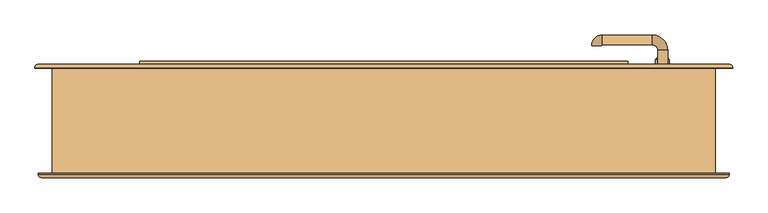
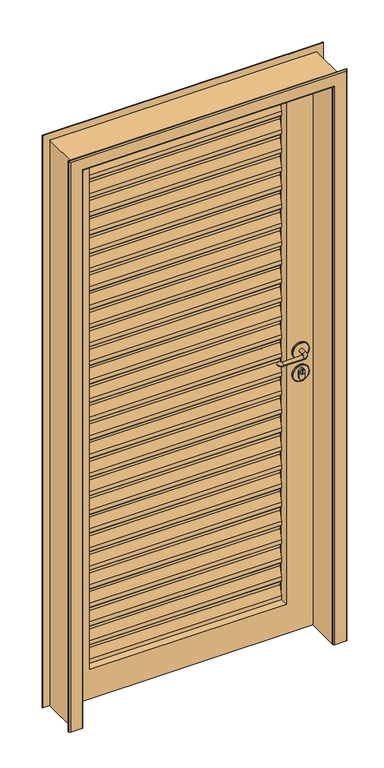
"""IFC4 building model written with IfcOpenShell, lengths in millimetres: door geometry, PORTA VENEZIANA PARAMÉTRICA : .VENEZIANA 90X210 2."""

from ifc_helpers import new_model, si_unit, point, frame, origin, place, context, project, spatial, polyline, circle_curve, ellipse_curve, trimmed, outline, extrude, faceted_brep, source, transform, mapped, element, save
from ifc_brep_helpers import plane_surface, cylinder_surface, revolved_surface, advanced_brep


def door_47245ebf(model_context):
    return source(origin(), model_context, "Body", "SolidModel", [
        extrude(outline(polyline([(75.0, 1945.0), (75.0, 1930.0), (74.0, 1930.0), (74.0, 1945.1400549), (84.0, 1980.1400549), (84.0, 1999.0), (74.0, 1999.0), (74.0, 2000.0), (85.0, 2000.0), (85.0, 1980.0), (75.0, 1945.0)])), frame((-350.0, 0.0, 0.0), z_axis=(1.0, 0.0, 0.0), x_axis=(0.0, 1.0, 0.0)), (0.0, 0.0, 1.0), 700.0),
        extrude(outline(polyline([(75.0, 1875.0), (75.0, 1860.0), (74.0, 1860.0), (74.0, 1875.1400549), (84.0, 1910.1400549), (84.0, 1929.0), (74.0, 1929.0), (74.0, 1930.0), (85.0, 1930.0), (85.0, 1910.0), (75.0, 1875.0)])), frame((-350.0, 0.0, 0.0), z_axis=(1.0, 0.0, 0.0), x_axis=(0.0, 1.0, 0.0)), (0.0, 0.0, 1.0), 700.0),
        extrude(outline(polyline([(75.0, 1805.0), (75.0, 1790.0), (74.0, 1790.0), (74.0, 1805.1400549), (84.0, 1840.1400549), (84.0, 1859.0), (74.0, 1859.0), (74.0, 1860.0), (85.0, 1860.0), (85.0, 1840.0), (75.0, 1805.0)])), frame((-350.0, 0.0, 0.0), z_axis=(1.0, 0.0, 0.0), x_axis=(0.0, 1.0, 0.0)), (0.0, 0.0, 1.0), 700.0),
        extrude(outline(polyline([(75.0, 1735.0), (75.0, 1720.0), (74.0, 1720.0), (74.0, 1735.1400549), (84.0, 1770.1400549), (84.0, 1789.0), (74.0, 1789.0), (74.0, 1790.0), (85.0, 1790.0), (85.0, 1770.0), (75.0, 1735.0)])), frame((-350.0, 0.0, 0.0), z_axis=(1.0, 0.0, 0.0), x_axis=(0.0, 1.0, 0.0)), (0.0, 0.0, 1.0), 700.0),
        extrude(outline(polyline([(75.0, 1665.0), (75.0, 1650.0), (74.0, 1650.0), (74.0, 1665.1400549), (84.0, 1700.1400549), (84.0, 1719.0), (74.0, 1719.0), (74.0, 1720.0), (85.0, 1720.0), (85.0, 1700.0), (75.0, 1665.0)])), frame((-350.0, 0.0, 0.0), z_axis=(1.0, 0.0, 0.0), x_axis=(0.0, 1.0, 0.0)), (0.0, 0.0, 1.0), 700.0),
        extrude(outline(polyline([(75.0, 1595.0), (75.0, 1580.0), (74.0, 1580.0), (74.0, 1595.1400549), (84.0, 1630.1400549), (84.0, 1649.0), (74.0, 1649.0), (74.0, 1650.0), (85.0, 1650.0), (85.0, 1630.0), (75.0, 1595.0)])), frame((-350.0, 0.0, 0.0), z_axis=(1.0, 0.0, 0.0), x_axis=(0.0, 1.0, 0.0)), (0.0, 0.0, 1.0), 700.0),
        extrude(outline(polyline([(75.0, 1525.0), (75.0, 1510.0), (74.0, 1510.0), (74.0, 1525.1400549), (84.0, 1560.1400549), (84.0, 1579.0), (74.0, 1579.0), (74.0, 1580.0), (85.0, 1580.0), (85.0, 1560.0), (75.0, 1525.0)])), frame((-350.0, 0.0, 0.0), z_axis=(1.0, 0.0, 0.0), x_axis=(0.0, 1.0, 0.0)), (0.0, 0.0, 1.0), 700.0),
        extrude(outline(polyline([(75.0, 1455.0), (75.0, 1440.0), (74.0, 1440.0), (74.0, 1455.1400549), (84.0, 1490.1400549), (84.0, 1509.0), (74.0, 1509.0), (74.0, 1510.0), (85.0, 1510.0), (85.0, 1490.0), (75.0, 1455.0)])), frame((-350.0, 0.0, 0.0), z_axis=(1.0, 0.0, 0.0), x_axis=(0.0, 1.0, 0.0)), (0.0, 0.0, 1.0), 700.0),
        extrude(outline(polyline([(75.0, 1385.0), (75.0, 1370.0), (74.0, 1370.0), (74.0, 1385.1400549), (84.0, 1420.1400549), (84.0, 1439.0), (74.0, 1439.0), (74.0, 1440.0), (85.0, 1440.0), (85.0, 1420.0), (75.0, 1385.0)])), frame((-350.0, 0.0, 0.0), z_axis=(1.0, 0.0, 0.0), x_axis=(0.0, 1.0, 0.0)), (0.0, 0.0, 1.0), 700.0),
        extrude(outline(polyline([(75.0, 1315.0), (75.0, 1300.0), (74.0, 1300.0), (74.0, 1315.1400549), (84.0, 1350.1400549), (84.0, 1369.0), (74.0, 1369.0), (74.0, 1370.0), (85.0, 1370.0), (85.0, 1350.0), (75.0, 1315.0)])), frame((-350.0, 0.0, 0.0), z_axis=(1.0, 0.0, 0.0), x_axis=(0.0, 1.0, 0.0)), (0.0, 0.0, 1.0), 700.0),
        extrude(outline(polyline([(75.0, 1245.0), (75.0, 1230.0), (74.0, 1230.0), (74.0, 1245.1400549), (84.0, 1280.1400549), (84.0, 1299.0), (74.0, 1299.0), (74.0, 1300.0), (85.0, 1300.0), (85.0, 1280.0), (75.0, 1245.0)])), frame((-350.0, 0.0, 0.0), z_axis=(1.0, 0.0, 0.0), x_axis=(0.0, 1.0, 0.0)), (0.0, 0.0, 1.0), 700.0),
        extrude(outline(polyline([(75.0, 1175.0), (75.0, 1160.0), (74.0, 1160.0), (74.0, 1175.1400549), (84.0, 1210.1400549), (84.0, 1229.0), (74.0, 1229.0), (74.0, 1230.0), (85.0, 1230.0), (85.0, 1210.0), (75.0, 1175.0)])), frame((-350.0, 0.0, 0.0), z_axis=(1.0, 0.0, 0.0), x_axis=(0.0, 1.0, 0.0)), (0.0, 0.0, 1.0), 700.0),
        extrude(outline(polyline([(75.0, 1105.0), (75.0, 1090.0), (74.0, 1090.0), (74.0, 1105.1400549), (84.0, 1140.1400549), (84.0, 1159.0), (74.0, 1159.0), (74.0, 1160.0), (85.0, 1160.0), (85.0, 1140.0), (75.0, 1105.0)])), frame((-350.0, 0.0, 0.0), z_axis=(1.0, 0.0, 0.0), x_axis=(0.0, 1.0, 0.0)), (0.0, 0.0, 1.0), 700.0),
        extrude(outline(polyline([(75.0, 1035.0), (75.0, 1020.0), (74.0, 1020.0), (74.0, 1035.1400549), (84.0, 1070.1400549), (84.0, 1089.0), (74.0, 1089.0), (74.0, 1090.0), (85.0, 1090.0), (85.0, 1070.0), (75.0, 1035.0)])), frame((-350.0, 0.0, 0.0), z_axis=(1.0, 0.0, 0.0), x_axis=(0.0, 1.0, 0.0)), (0.0, 0.0, 1.0), 700.0),
        extrude(outline(polyline([(75.0, 965.0), (75.0, 950.0), (74.0, 950.0), (74.0, 965.1400549), (84.0, 1000.1400549), (84.0, 1019.0), (74.0, 1019.0), (74.0, 1020.0), (85.0, 1020.0), (85.0, 1000.0), (75.0, 965.0)])), frame((-350.0, 0.0, 0.0), z_axis=(1.0, 0.0, 0.0), x_axis=(0.0, 1.0, 0.0)), (0.0, 0.0, 1.0), 700.0),
        extrude(outline(polyline([(75.0, 895.0), (75.0, 880.0), (74.0, 880.0), (74.0, 895.1400549), (84.0, 930.1400549), (84.0, 949.0), (74.0, 949.0), (74.0, 950.0), (85.0, 950.0), (85.0, 930.0), (75.0, 895.0)])), frame((-350.0, 0.0, 0.0), z_axis=(1.0, 0.0, 0.0), x_axis=(0.0, 1.0, 0.0)), (0.0, 0.0, 1.0), 700.0),
        extrude(outline(polyline([(75.0, 825.0), (75.0, 810.0), (74.0, 810.0), (74.0, 825.1400549), (84.0, 860.1400549), (84.0, 879.0), (74.0, 879.0), (74.0, 880.0), (85.0, 880.0), (85.0, 860.0), (75.0, 825.0)])), frame((-350.0, 0.0, 0.0), z_axis=(1.0, 0.0, 0.0), x_axis=(0.0, 1.0, 0.0)), (0.0, 0.0, 1.0), 700.0),
        extrude(outline(polyline([(75.0, 755.0), (75.0, 740.0), (74.0, 740.0), (74.0, 755.1400549), (84.0, 790.1400549), (84.0, 809.0), (74.0, 809.0), (74.0, 810.0), (85.0, 810.0), (85.0, 790.0), (75.0, 755.0)])), frame((-350.0, 0.0, 0.0), z_axis=(1.0, 0.0, 0.0), x_axis=(0.0, 1.0, 0.0)), (0.0, 0.0, 1.0), 700.0),
        extrude(outline(polyline([(75.0, 685.0), (75.0, 670.0), (74.0, 670.0), (74.0, 685.1400549), (84.0, 720.1400549), (84.0, 739.0), (74.0, 739.0), (74.0, 740.0), (85.0, 740.0), (85.0, 720.0), (75.0, 685.0)])), frame((-350.0, 0.0, 0.0), z_axis=(1.0, 0.0, 0.0), x_axis=(0.0, 1.0, 0.0)), (0.0, 0.0, 1.0), 700.0),
        extrude(outline(polyline([(75.0, 615.0), (75.0, 600.0), (74.0, 600.0), (74.0, 615.1400549), (84.0, 650.1400549), (84.0, 669.0), (74.0, 669.0), (74.0, 670.0), (85.0, 670.0), (85.0, 650.0), (75.0, 615.0)])), frame((-350.0, 0.0, 0.0), z_axis=(1.0, 0.0, 0.0), x_axis=(0.0, 1.0, 0.0)), (0.0, 0.0, 1.0), 700.0),
        extrude(outline(polyline([(75.0, 545.0), (75.0, 530.0), (74.0, 530.0), (74.0, 545.1400549), (84.0, 580.1400549), (84.0, 599.0), (74.0, 599.0), (74.0, 600.0), (85.0, 600.0), (85.0, 580.0), (75.0, 545.0)])), frame((-350.0, 0.0, 0.0), z_axis=(1.0, 0.0, 0.0), x_axis=(0.0, 1.0, 0.0)), (0.0, 0.0, 1.0), 700.0),
        extrude(outline(polyline([(75.0, 475.0), (75.0, 460.0), (74.0, 460.0), (74.0, 475.1400549), (84.0, 510.1400549), (84.0, 529.0), (74.0, 529.0), (74.0, 530.0), (85.0, 530.0), (85.0, 510.0), (75.0, 475.0)])), frame((-350.0, 0.0, 0.0), z_axis=(1.0, 0.0, 0.0), x_axis=(0.0, 1.0, 0.0)), (0.0, 0.0, 1.0), 700.0),
        extrude(outline(polyline([(75.0, 405.0), (75.0, 390.0), (74.0, 390.0), (74.0, 405.1400549), (84.0, 440.1400549), (84.0, 459.0), (74.0, 459.0), (74.0, 460.0), (85.0, 460.0), (85.0, 440.0), (75.0, 405.0)])), frame((-350.0, 0.0, 0.0), z_axis=(1.0, 0.0, 0.0), x_axis=(0.0, 1.0, 0.0)), (0.0, 0.0, 1.0), 700.0),
        extrude(outline(polyline([(75.0, 335.0), (75.0, 320.0), (74.0, 320.0), (74.0, 335.1400549), (84.0, 370.1400549), (84.0, 389.0), (74.0, 389.0), (74.0, 390.0), (85.0, 390.0), (85.0, 370.0), (75.0, 335.0)])), frame((-350.0, 0.0, 0.0), z_axis=(1.0, 0.0, 0.0), x_axis=(0.0, 1.0, 0.0)), (0.0, 0.0, 1.0), 700.0),
        extrude(outline(polyline([(75.0, 265.0), (75.0, 250.0), (74.0, 250.0), (74.0, 265.1400549), (84.0, 300.1400549), (84.0, 319.0), (74.0, 319.0), (74.0, 320.0), (85.0, 320.0), (85.0, 300.0), (75.0, 265.0)])), frame((-350.0, 0.0, 0.0), z_axis=(1.0, 0.0, 0.0), x_axis=(0.0, 1.0, 0.0)), (0.0, 0.0, 1.0), 700.0),
        extrude(outline(polyline([(75.0, 195.0), (75.0, 180.0), (74.0, 180.0), (74.0, 195.1400549), (84.0, 230.1400549), (84.0, 249.0), (74.0, 249.0), (74.0, 250.0), (85.0, 250.0), (85.0, 230.0), (75.0, 195.0)])), frame((-350.0, 0.0, 0.0), z_axis=(1.0, 0.0, 0.0), x_axis=(0.0, 1.0, 0.0)), (0.0, 0.0, 1.0), 700.0),
        extrude(outline(polyline([(75.0, 125.0), (75.0, 110.0), (74.0, 110.0), (74.0, 125.1400549), (84.0, 160.1400549), (84.0, 179.0), (74.0, 179.0), (74.0, 180.0), (85.0, 180.0), (85.0, 160.0), (75.0, 125.0)])), frame((-350.0, 0.0, 0.0), z_axis=(1.0, 0.0, 0.0), x_axis=(0.0, 1.0, 0.0)), (0.0, 0.0, 1.0), 700.0),
        advanced_brep(
        [(393.0, 19.0, 1050.0), (407.0, 19.0, 1050.0), (407.0, 39.0, 1050.0), (393.0, 39.0, 1050.0), (385.0, 11.0, 1050.0), (385.0, -3.0, 1050.0), (313.0, 11.0, 1050.0), (313.0, -3.0, 1050.0), (312.0, 12.0, 1050.0), (298.0, 12.0, 1050.0), (371.0897225, 39.0, 1049.3126953), (427.0897225, 39.0, 1049.3126953), (429.0897225, 45.0, 1049.3126953), (369.0897225, 45.0, 1049.3126953), (369.0897225, 41.0, 1049.3126953), (429.0897225, 41.0, 1049.3126953)],
        [
            (0, 1, circle_curve(frame((400.0, 19.0, 1050.0), z_axis=(0.0, 1.0, 0.0), x_axis=(1.0, 0.0, 0.0)), 7.0)),
            (1, 2),
            (2, 3, circle_curve(frame((400.0, 39.0, 1050.0), z_axis=(0.0, -1.0, 0.0), x_axis=(1.0, 0.0, 0.0)), 7.0)),
            (3, 0),
            (1, 0, circle_curve(frame((400.0, 19.0, 1050.0), z_axis=(0.0, 1.0, 0.0), x_axis=(1.0, 0.0, 0.0)), 7.0)),
            (3, 2, circle_curve(frame((400.0, 39.0, 1050.0), z_axis=(0.0, -1.0, 0.0), x_axis=(1.0, 0.0, 0.0)), 7.0)),
            (0, 4, circle_curve(frame((385.0, 19.0, 1050.0), z_axis=(0.0, 0.0, -1.0), x_axis=(1.0, 0.0, 0.0)), 8.0)),
            (4, 5, circle_curve(frame((385.0, 4.0, 1050.0), z_axis=(1.0, 0.0, 0.0), x_axis=(0.0, -1.0, 0.0)), 7.0)),
            (5, 1, circle_curve(frame((385.0, 19.0, 1050.0), z_axis=(0.0, 0.0, 1.0), x_axis=(1.0, 0.0, 0.0)), 22.0)),
            (5, 4, circle_curve(frame((385.0, 4.0, 1050.0), z_axis=(1.0, 0.0, 0.0), x_axis=(0.0, -1.0, 0.0)), 7.0)),
            (4, 6),
            (6, 7, circle_curve(frame((313.0, 4.0, 1050.0), z_axis=(1.0, 0.0, 0.0), x_axis=(0.0, -1.0, 0.0)), 7.0)),
            (7, 5),
            (7, 6, circle_curve(frame((313.0, 4.0, 1050.0), z_axis=(1.0, 0.0, 0.0), x_axis=(0.0, -1.0, 0.0)), 7.0)),
            (8, 9, circle_curve(frame((305.0, 12.0, 1050.0), z_axis=(0.0, 1.0, 0.0), x_axis=(-1.0, 0.0, 0.0)), 7.0)),
            (9, 8, circle_curve(frame((305.0, 12.0, 1050.0), z_axis=(0.0, 1.0, 0.0), x_axis=(-1.0, 0.0, 0.0)), 7.0)),
            (6, 8, circle_curve(frame((313.0, 12.0, 1050.0), z_axis=(0.0, 0.0, -1.0), x_axis=(0.0, -1.0, 0.0)), 1.0)),
            (9, 7, circle_curve(frame((313.0, 12.0, 1050.0), z_axis=(0.0, 0.0, 1.0), x_axis=(0.0, -1.0, 0.0)), 15.0)),
            (10, 11, circle_curve(frame((399.0897225, 39.0, 1049.3126953), z_axis=(0.0, -1.0, 0.0), x_axis=(1.0, 0.0, 0.0)), 28.0)),
            (11, 10, circle_curve(frame((399.0897225, 39.0, 1049.3126953), z_axis=(0.0, -1.0, 0.0), x_axis=(-1.0, 0.0, 0.0)), 28.0)),
            (12, 13, circle_curve(frame((399.0897225, 45.0, 1049.3126953), z_axis=(0.0, 1.0, 0.0), x_axis=(-1.0, 0.0, 0.0)), 30.0)),
            (13, 12, circle_curve(frame((399.0897225, 45.0, 1049.3126953), z_axis=(0.0, 1.0, 0.0), x_axis=(-1.0, 0.0, 0.0)), 30.0)),
            (13, 14),
            (14, 15, circle_curve(frame((399.0897225, 41.0, 1049.3126953), z_axis=(0.0, 1.0, 0.0), x_axis=(-1.0, 0.0, 0.0)), 30.0)),
            (15, 12),
            (15, 14, circle_curve(frame((399.0897225, 41.0, 1049.3126953), z_axis=(0.0, 1.0, 0.0), x_axis=(-1.0, 0.0, 0.0)), 30.0)),
            (10, 14, circle_curve(frame((371.0897225, 41.0, 1049.3126953), z_axis=(0.0, 0.0, -1.0), x_axis=(-1.0, 0.0, 0.0)), 2.0)),
            (15, 11, circle_curve(frame((427.0897225, 41.0, 1049.3126953), z_axis=(0.0, 0.0, -1.0), x_axis=(1.0, 0.0, 0.0)), 2.0)),
        ],
        [
            cylinder_surface(frame((400.0, 45.0, 1050.0), z_axis=(0.0, 1.0, 0.0), x_axis=(1.0, 0.0, 0.0)), 7.0),
            revolved_surface(trimmed(ellipse_curve(frame((400.0, 19.0, 1050.0), z_axis=(0.0, 1.0, 0.0), x_axis=(1.0, 0.0, 0.0)), 7.0, 7.0), [point((393.0, 19.0, 1050.0))], [point((407.0, 19.0, 1050.0))], True, "CARTESIAN"), (385.0, 19.0, 1050.0), (0.0, 0.0, -1.0)),
            revolved_surface(trimmed(ellipse_curve(frame((400.0, 19.0, 1050.0), z_axis=(0.0, 1.0, 0.0), x_axis=(1.0, 0.0, 0.0)), 7.0, 7.0), [point((407.0, 19.0, 1050.0))], [point((393.0, 19.0, 1050.0))], True, "CARTESIAN"), (385.0, 19.0, 1050.0), (0.0, 0.0, -1.0)),
            cylinder_surface(frame((385.0, 4.0, 1050.0), z_axis=(1.0, 0.0, 0.0), x_axis=(0.0, -1.0, 0.0)), 7.0),
            plane_surface(frame((305.0, 12.0, 1050.0), z_axis=(0.0, 1.0, 0.0), x_axis=(0.0, 0.0, 1.0))),
            revolved_surface(trimmed(ellipse_curve(frame((313.0, 4.0, 1050.0), z_axis=(1.0, 0.0, 0.0), x_axis=(0.0, -1.0, 0.0)), 7.0, 7.0), [point((313.0, 11.0, 1050.0))], [point((313.0, -3.0, 1050.0))], True, "CARTESIAN"), (313.0, 12.0, 1050.0), (0.0, 0.0, -1.0)),
            revolved_surface(trimmed(ellipse_curve(frame((313.0, 4.0, 1050.0), z_axis=(1.0, 0.0, 0.0), x_axis=(0.0, -1.0, 0.0)), 7.0, 7.0), [point((313.0, -3.0, 1050.0))], [point((313.0, 11.0, 1050.0))], True, "CARTESIAN"), (313.0, 12.0, 1050.0), (0.0, 0.0, -1.0)),
            plane_surface(frame((369.0897225, 39.0, 1049.3126953), z_axis=(0.0, -1.0, 0.0), x_axis=(0.0, 0.0, -1.0))),
            plane_surface(frame((369.0897225, 45.0, 1049.3126953), z_axis=(0.0, 1.0, 0.0), x_axis=(0.0, 0.0, 1.0))),
            cylinder_surface(frame((399.0897225, 45.0, 1049.3126953), z_axis=(0.0, -1.0, 0.0), x_axis=(-1.0, 0.0, 0.0)), 30.0),
            revolved_surface(trimmed(ellipse_curve(frame((427.0897225, 41.0, 1049.3126953), z_axis=(0.0, 0.0, 1.0), x_axis=(1.0, 0.0, 0.0)), 2.0, 2.0), [point((427.0897225, 39.0, 1049.3126953))], [point((429.0897225, 41.0, 1049.3126953))], True, "CARTESIAN"), (399.0897225, 45.0, 1049.3126953), (0.0, 1.0, 0.0)),
            revolved_surface(trimmed(ellipse_curve(frame((371.0897225, 41.0, 1049.3126953), z_axis=(0.0, 0.0, -1.0), x_axis=(-1.0, 0.0, 0.0)), 2.0, 2.0), [point((371.0897225, 39.0, 1049.3126953))], [point((369.0897225, 41.0, 1049.3126953))], True, "CARTESIAN"), (399.0897225, 45.0, 1049.3126953), (0.0, 1.0, 0.0)),
        ],
        [
            (0, [[1, 2, 3, 4]]),
            (0, [[5, -4, 6, -2]]),
            (1, [[-1, 7, 8, 9]]),
            (2, [[-5, -9, 10, -7]]),
            (3, [[-8, 11, 12, 13]]),
            (3, [[-10, -13, 14, -11]]),
            (4, [[15, 16]]),
            (5, [[-12, 17, -16, 18]]),
            (6, [[-14, -18, -15, -17]]),
            (7, [[19, 20], [-3, -6]]),
            (8, [[21, 22]]),
            (9, [[-22, 23, 24, 25]]),
            (9, [[-21, -25, 26, -23]]),
            (10, [[27, -26, 28, -19]]),
            (11, [[-27, -20, -28, -24]]),
        ],
    ),
        advanced_brep(
        [(371.0897225, 39.0, 964.9710055), (427.0897225, 39.0, 964.9710055), (389.0897225, 39.0, 974.9710055), (409.0897225, 39.0, 974.9710055), (409.0897225, 39.0, 954.9710055), (389.0897225, 39.0, 954.9710055), (398.0897225, 39.0, 980.9710055), (398.0897225, 39.0, 968.9710055), (400.0897225, 39.0, 968.9710055), (400.0897225, 39.0, 980.9710055), (429.0897225, 45.0, 964.9710055), (369.0897225, 45.0, 964.9710055), (429.0897225, 41.0, 964.9710055), (369.0897225, 41.0, 964.9710055), (409.0897225, 32.5, 974.9710055), (389.0897225, 32.5, 974.9710055), (389.0897225, 32.5, 954.9710055), (409.0897225, 32.5, 954.9710055), (390.5897225, 32.5, 974.9710055), (407.5897225, 32.5, 974.9710055), (398.0897225, 30.0, 980.9710055), (398.0897225, 30.0, 968.9710055), (400.0897225, 30.0, 980.9710055), (400.0897225, 30.0, 968.9710055), (407.5897225, 30.0, 974.9710055), (390.5897225, 30.0, 974.9710055)],
        [
            (0, 1, circle_curve(frame((399.0897225, 39.0, 964.9710055), z_axis=(0.0, -1.0, 0.0), x_axis=(1.0, 0.0, 0.0)), 28.0)),
            (1, 0, circle_curve(frame((399.0897225, 39.0, 964.9710055), z_axis=(0.0, -1.0, 0.0), x_axis=(-1.0, 0.0, 0.0)), 28.0)),
            (2, 3, circle_curve(frame((399.0897225, 39.0, 974.9710055), z_axis=(0.0, 1.0, 0.0), x_axis=(-1.0, 0.0, 0.0)), 10.0)),
            (3, 4),
            (4, 5, circle_curve(frame((399.0897225, 39.0, 954.9710055), z_axis=(0.0, 1.0, 0.0), x_axis=(-1.0, 0.0, 0.0)), 10.0)),
            (5, 2),
            (6, 7),
            (7, 8),
            (8, 9),
            (9, 6),
            (10, 11, circle_curve(frame((399.0897225, 45.0, 964.9710055), z_axis=(0.0, 1.0, 0.0), x_axis=(-1.0, 0.0, 0.0)), 30.0)),
            (11, 10, circle_curve(frame((399.0897225, 45.0, 964.9710055), z_axis=(0.0, 1.0, 0.0), x_axis=(-1.0, 0.0, 0.0)), 30.0)),
            (10, 12),
            (12, 13, circle_curve(frame((399.0897225, 41.0, 964.9710055), z_axis=(0.0, 1.0, 0.0), x_axis=(-1.0, 0.0, 0.0)), 30.0)),
            (13, 11),
            (13, 12, circle_curve(frame((399.0897225, 41.0, 964.9710055), z_axis=(0.0, 1.0, 0.0), x_axis=(-1.0, 0.0, 0.0)), 30.0)),
            (0, 13, circle_curve(frame((371.0897225, 41.0, 964.9710055), z_axis=(0.0, 0.0, -1.0), x_axis=(-1.0, 0.0, 0.0)), 2.0)),
            (12, 1, circle_curve(frame((427.0897225, 41.0, 964.9710055), z_axis=(0.0, 0.0, -1.0), x_axis=(1.0, 0.0, 0.0)), 2.0)),
            (14, 15, circle_curve(frame((399.0897225, 32.5, 974.9710055), z_axis=(0.0, -1.0, 0.0), x_axis=(-1.0, 0.0, 0.0)), 10.0)),
            (15, 16),
            (16, 17, circle_curve(frame((399.0897225, 32.5, 954.9710055), z_axis=(0.0, -1.0, 0.0), x_axis=(-1.0, 0.0, 0.0)), 10.0)),
            (17, 14),
            (18, 19, circle_curve(frame((399.0897225, 32.5, 974.9710055), z_axis=(0.0, 1.0, 0.0), x_axis=(-1.0, 0.0, 0.0)), 8.5)),
            (19, 18, circle_curve(frame((399.0897225, 32.5, 974.9710055), z_axis=(0.0, 1.0, 0.0), x_axis=(-1.0, 0.0, 0.0)), 8.5)),
            (6, 20),
            (20, 21),
            (21, 7),
            (9, 22),
            (22, 20),
            (8, 23),
            (23, 22),
            (21, 23),
            (14, 3),
            (2, 15),
            (5, 16),
            (4, 17),
            (24, 25, circle_curve(frame((399.0897225, 30.0, 974.9710055), z_axis=(0.0, -1.0, 0.0), x_axis=(-1.0, 0.0, 0.0)), 8.5)),
            (25, 24, circle_curve(frame((399.0897225, 30.0, 974.9710055), z_axis=(0.0, -1.0, 0.0), x_axis=(-1.0, 0.0, 0.0)), 8.5)),
            (24, 19),
            (18, 25),
        ],
        [
            plane_surface(frame((369.0897225, 39.0, 964.9710055), z_axis=(0.0, -1.0, 0.0), x_axis=(0.0, 0.0, -1.0))),
            plane_surface(frame((369.0897225, 45.0, 964.9710055), z_axis=(0.0, 1.0, 0.0), x_axis=(0.0, 0.0, 1.0))),
            cylinder_surface(frame((399.0897225, 45.0, 964.9710055), z_axis=(0.0, -1.0, 0.0), x_axis=(-1.0, 0.0, 0.0)), 30.0),
            revolved_surface(trimmed(ellipse_curve(frame((427.0897225, 41.0, 964.9710055), z_axis=(0.0, 0.0, 1.0), x_axis=(1.0, 0.0, 0.0)), 2.0, 2.0), [point((427.0897225, 39.0, 964.9710055))], [point((429.0897225, 41.0, 964.9710055))], True, "CARTESIAN"), (399.0897225, 45.0, 964.9710055), (0.0, 1.0, 0.0)),
            revolved_surface(trimmed(ellipse_curve(frame((371.0897225, 41.0, 964.9710055), z_axis=(0.0, 0.0, -1.0), x_axis=(-1.0, 0.0, 0.0)), 2.0, 2.0), [point((371.0897225, 39.0, 964.9710055))], [point((369.0897225, 41.0, 964.9710055))], True, "CARTESIAN"), (399.0897225, 45.0, 964.9710055), (0.0, 1.0, 0.0)),
            plane_surface(frame((398.0897225, 32.5, 980.9710055), z_axis=(0.0, -1.0, 0.0), x_axis=(0.0, 0.0, 1.0))),
            plane_surface(frame((398.0897225, 32.5, 968.9710055), z_axis=(1.0, 0.0, 0.0), x_axis=(0.0, 1.0, 0.0))),
            plane_surface(frame((398.0897225, 32.5, 980.9710055), z_axis=(0.0, 0.0, -1.0), x_axis=(0.0, 1.0, 0.0))),
            plane_surface(frame((400.0897225, 32.5, 980.9710055), z_axis=(-1.0, 0.0, 0.0), x_axis=(0.0, 1.0, 0.0))),
            plane_surface(frame((400.0897225, 32.5, 968.9710055), z_axis=(0.0, 0.0, 1.0), x_axis=(0.0, 1.0, 0.0))),
            cylinder_surface(frame((399.0897225, 45.0, 974.9710055), z_axis=(0.0, -1.0, 0.0), x_axis=(-1.0, 0.0, 0.0)), 10.0),
            plane_surface(frame((389.0897225, 32.5, 974.9710055), z_axis=(-1.0, 0.0, 0.0), x_axis=(0.0, 1.0, 0.0))),
            cylinder_surface(frame((399.0897225, 45.0, 954.9710055), z_axis=(0.0, -1.0, 0.0), x_axis=(-1.0, 0.0, 0.0)), 10.0),
            plane_surface(frame((409.0897225, 32.5, 954.9710055), z_axis=(1.0, 0.0, 0.0), x_axis=(0.0, 1.0, 0.0))),
            plane_surface(frame((398.0897225, 30.0, 980.9710055), z_axis=(0.0, -1.0, 0.0), x_axis=(0.0, 0.0, 1.0))),
            cylinder_surface(frame((399.0897225, 45.0, 974.9710055), z_axis=(0.0, -1.0, 0.0), x_axis=(-1.0, 0.0, 0.0)), 8.5),
        ],
        [
            (0, [[1, 2], [3, 4, 5, 6]]),
            (0, [[7, 8, 9, 10]]),
            (1, [[11, 12]]),
            (2, [[-11, 13, 14, 15]]),
            (2, [[-12, -15, 16, -13]]),
            (3, [[17, -14, 18, -1]]),
            (4, [[-17, -2, -18, -16]]),
            (5, [[19, 20, 21, 22], [23, 24]]),
            (6, [[-7, 25, 26, 27]]),
            (7, [[-25, -10, 28, 29]]),
            (8, [[-28, -9, 30, 31]]),
            (9, [[-27, 32, -30, -8]]),
            (10, [[-19, 33, -3, 34]]),
            (11, [[-20, -34, -6, 35]]),
            (12, [[-21, -35, -5, 36]]),
            (13, [[-22, -36, -4, -33]]),
            (14, [[37, 38], [-26, -29, -31, -32]]),
            (15, [[-37, 39, -23, 40]]),
            (15, [[-38, -40, -24, -39]]),
        ],
    ),
        advanced_brep(
        [(393.0, 101.0, 1050.0), (393.0, 81.0, 1050.0), (407.0, 81.0, 1050.0), (407.0, 101.0, 1050.0), (385.0, 123.0, 1050.0), (385.0, 109.0, 1050.0), (313.0, 123.0, 1050.0), (313.0, 109.0, 1050.0), (312.0, 108.0, 1050.0), (298.0, 108.0, 1050.0), (371.0897225, 81.0, 1049.3126953), (427.0897225, 81.0, 1049.3126953), (429.0897225, 75.0, 1049.3126953), (369.0897225, 75.0, 1049.3126953), (429.0897225, 79.0, 1049.3126953), (369.0897225, 79.0, 1049.3126953)],
        [
            (0, 1),
            (1, 2, circle_curve(frame((400.0, 81.0, 1050.0), z_axis=(0.0, 1.0, 0.0), x_axis=(1.0, 0.0, 0.0)), 7.0)),
            (2, 3),
            (3, 0, circle_curve(frame((400.0, 101.0, 1050.0), z_axis=(0.0, -1.0, 0.0), x_axis=(1.0, 0.0, 0.0)), 7.0)),
            (2, 1, circle_curve(frame((400.0, 81.0, 1050.0), z_axis=(0.0, 1.0, 0.0), x_axis=(1.0, 0.0, 0.0)), 7.0)),
            (0, 3, circle_curve(frame((400.0, 101.0, 1050.0), z_axis=(0.0, -1.0, 0.0), x_axis=(1.0, 0.0, 0.0)), 7.0)),
            (3, 4, circle_curve(frame((385.0, 101.0, 1050.0), z_axis=(0.0, 0.0, 1.0), x_axis=(1.0, 0.0, 0.0)), 22.0)),
            (4, 5, circle_curve(frame((385.0, 116.0, 1050.0), z_axis=(1.0, 0.0, 0.0), x_axis=(0.0, 1.0, 0.0)), 7.0)),
            (5, 0, circle_curve(frame((385.0, 101.0, 1050.0), z_axis=(0.0, 0.0, -1.0), x_axis=(1.0, 0.0, 0.0)), 8.0)),
            (5, 4, circle_curve(frame((385.0, 116.0, 1050.0), z_axis=(1.0, 0.0, 0.0), x_axis=(0.0, 1.0, 0.0)), 7.0)),
            (4, 6),
            (6, 7, circle_curve(frame((313.0, 116.0, 1050.0), z_axis=(1.0, 0.0, 0.0), x_axis=(0.0, 1.0, 0.0)), 7.0)),
            (7, 5),
            (7, 6, circle_curve(frame((313.0, 116.0, 1050.0), z_axis=(1.0, 0.0, 0.0), x_axis=(0.0, 1.0, 0.0)), 7.0)),
            (8, 9, circle_curve(frame((305.0, 108.0, 1050.0), z_axis=(0.0, -1.0, 0.0), x_axis=(-1.0, 0.0, 0.0)), 7.0)),
            (9, 8, circle_curve(frame((305.0, 108.0, 1050.0), z_axis=(0.0, -1.0, 0.0), x_axis=(-1.0, 0.0, 0.0)), 7.0)),
            (6, 9, circle_curve(frame((313.0, 108.0, 1050.0), z_axis=(0.0, 0.0, 1.0), x_axis=(0.0, 1.0, 0.0)), 15.0)),
            (8, 7, circle_curve(frame((313.0, 108.0, 1050.0), z_axis=(0.0, 0.0, -1.0), x_axis=(0.0, 1.0, 0.0)), 1.0)),
            (10, 11, circle_curve(frame((399.0897225, 81.0, 1049.3126953), z_axis=(0.0, 1.0, 0.0), x_axis=(-1.0, 0.0, 0.0)), 28.0)),
            (11, 10, circle_curve(frame((399.0897225, 81.0, 1049.3126953), z_axis=(0.0, 1.0, 0.0), x_axis=(1.0, 0.0, 0.0)), 28.0)),
            (12, 13, circle_curve(frame((399.0897225, 75.0, 1049.3126953), z_axis=(0.0, -1.0, 0.0), x_axis=(-1.0, 0.0, 0.0)), 30.0)),
            (13, 12, circle_curve(frame((399.0897225, 75.0, 1049.3126953), z_axis=(0.0, -1.0, 0.0), x_axis=(-1.0, 0.0, 0.0)), 30.0)),
            (12, 14),
            (14, 15, circle_curve(frame((399.0897225, 79.0, 1049.3126953), z_axis=(0.0, -1.0, 0.0), x_axis=(-1.0, 0.0, 0.0)), 30.0)),
            (15, 13),
            (15, 14, circle_curve(frame((399.0897225, 79.0, 1049.3126953), z_axis=(0.0, -1.0, 0.0), x_axis=(-1.0, 0.0, 0.0)), 30.0)),
            (11, 14, circle_curve(frame((427.0897225, 79.0, 1049.3126953), z_axis=(0.0, 0.0, -1.0), x_axis=(1.0, 0.0, 0.0)), 2.0)),
            (15, 10, circle_curve(frame((371.0897225, 79.0, 1049.3126953), z_axis=(0.0, 0.0, -1.0), x_axis=(-1.0, 0.0, 0.0)), 2.0)),
        ],
        [
            cylinder_surface(frame((400.0, 75.0, 1050.0), z_axis=(0.0, -1.0, 0.0), x_axis=(1.0, 0.0, 0.0)), 7.0),
            revolved_surface(trimmed(ellipse_curve(frame((400.0, 101.0, 1050.0), z_axis=(0.0, 1.0, 0.0), x_axis=(1.0, 0.0, 0.0)), 7.0, 7.0), [point((393.0, 101.0, 1050.0))], [point((407.0, 101.0, 1050.0))], True, "CARTESIAN"), (385.0, 101.0, 1050.0), (0.0, 0.0, -1.0)),
            revolved_surface(trimmed(ellipse_curve(frame((400.0, 101.0, 1050.0), z_axis=(0.0, 1.0, 0.0), x_axis=(1.0, 0.0, 0.0)), 7.0, 7.0), [point((407.0, 101.0, 1050.0))], [point((393.0, 101.0, 1050.0))], True, "CARTESIAN"), (385.0, 101.0, 1050.0), (0.0, 0.0, -1.0)),
            cylinder_surface(frame((385.0, 116.0, 1050.0), z_axis=(1.0, 0.0, 0.0), x_axis=(0.0, 1.0, 0.0)), 7.0),
            plane_surface(frame((305.0, 108.0, 1050.0), z_axis=(0.0, -1.0, 0.0), x_axis=(0.0, 0.0, 1.0))),
            revolved_surface(trimmed(ellipse_curve(frame((313.0, 116.0, 1050.0), z_axis=(-1.0, 0.0, 0.0), x_axis=(0.0, 1.0, 0.0)), 7.0, 7.0), [point((313.0, 109.0, 1050.0))], [point((313.0, 123.0, 1050.0))], True, "CARTESIAN"), (313.0, 108.0, 1050.0), (0.0, 0.0, -1.0)),
            revolved_surface(trimmed(ellipse_curve(frame((313.0, 116.0, 1050.0), z_axis=(-1.0, 0.0, 0.0), x_axis=(0.0, 1.0, 0.0)), 7.0, 7.0), [point((313.0, 123.0, 1050.0))], [point((313.0, 109.0, 1050.0))], True, "CARTESIAN"), (313.0, 108.0, 1050.0), (0.0, 0.0, -1.0)),
            plane_surface(frame((369.0897225, 81.0, 1049.3126953), z_axis=(0.0, 1.0, 0.0), x_axis=(0.0, 0.0, -1.0))),
            plane_surface(frame((369.0897225, 75.0, 1049.3126953), z_axis=(0.0, -1.0, 0.0), x_axis=(0.0, 0.0, 1.0))),
            cylinder_surface(frame((399.0897225, 75.0, 1049.3126953), z_axis=(0.0, 1.0, 0.0), x_axis=(-1.0, 0.0, 0.0)), 30.0),
            revolved_surface(trimmed(ellipse_curve(frame((427.0897225, 79.0, 1049.3126953), z_axis=(0.0, 0.0, -1.0), x_axis=(1.0, 0.0, 0.0)), 2.0, 2.0), [point((427.0897225, 81.0, 1049.3126953))], [point((429.0897225, 79.0, 1049.3126953))], True, "CARTESIAN"), (399.0897225, 75.0, 1049.3126953), (0.0, -1.0, 0.0)),
            revolved_surface(trimmed(ellipse_curve(frame((371.0897225, 79.0, 1049.3126953), z_axis=(0.0, 0.0, 1.0), x_axis=(-1.0, 0.0, 0.0)), 2.0, 2.0), [point((371.0897225, 81.0, 1049.3126953))], [point((369.0897225, 79.0, 1049.3126953))], True, "CARTESIAN"), (399.0897225, 75.0, 1049.3126953), (0.0, -1.0, 0.0)),
        ],
        [
            (0, [[1, 2, 3, 4]]),
            (0, [[-3, 5, -1, 6]]),
            (1, [[7, 8, 9, -4]]),
            (2, [[-9, 10, -7, -6]]),
            (3, [[11, 12, 13, -8]]),
            (3, [[-13, 14, -11, -10]]),
            (4, [[15, 16]]),
            (5, [[17, -15, 18, -12]]),
            (6, [[-18, -16, -17, -14]]),
            (7, [[19, 20], [-5, -2]]),
            (8, [[21, 22]]),
            (9, [[23, 24, 25, -21]]),
            (9, [[-25, 26, -23, -22]]),
            (10, [[-20, 27, -26, 28]]),
            (11, [[-24, -27, -19, -28]]),
        ],
    ),
        advanced_brep(
        [(371.0897225, 81.0, 964.9710055), (427.0897225, 81.0, 964.9710055), (389.0897225, 81.0, 974.9710055), (389.0897225, 81.0, 954.9710055), (409.0897225, 81.0, 954.9710055), (409.0897225, 81.0, 974.9710055), (398.0897225, 81.0, 980.9710055), (400.0897225, 81.0, 980.9710055), (400.0897225, 81.0, 968.9710055), (398.0897225, 81.0, 968.9710055), (429.0897225, 75.0, 964.9710055), (369.0897225, 75.0, 964.9710055), (369.0897225, 79.0, 964.9710055), (429.0897225, 79.0, 964.9710055), (409.0897225, 87.5, 974.9710055), (409.0897225, 87.5, 954.9710055), (389.0897225, 87.5, 954.9710055), (389.0897225, 87.5, 974.9710055), (390.5897225, 87.5, 974.9710055), (407.5897225, 87.5, 974.9710055), (398.0897225, 90.0, 968.9710055), (398.0897225, 90.0, 980.9710055), (400.0897225, 90.0, 980.9710055), (400.0897225, 90.0, 968.9710055), (407.5897225, 90.0, 974.9710055), (390.5897225, 90.0, 974.9710055)],
        [
            (0, 1, circle_curve(frame((399.0897225, 81.0, 964.9710055), z_axis=(0.0, 1.0, 0.0), x_axis=(-1.0, 0.0, 0.0)), 28.0)),
            (1, 0, circle_curve(frame((399.0897225, 81.0, 964.9710055), z_axis=(0.0, 1.0, 0.0), x_axis=(1.0, 0.0, 0.0)), 28.0)),
            (2, 3),
            (3, 4, circle_curve(frame((399.0897225, 81.0, 954.9710055), z_axis=(0.0, -1.0, 0.0), x_axis=(-1.0, 0.0, 0.0)), 10.0)),
            (4, 5),
            (5, 2, circle_curve(frame((399.0897225, 81.0, 974.9710055), z_axis=(0.0, -1.0, 0.0), x_axis=(-1.0, 0.0, 0.0)), 10.0)),
            (6, 7),
            (7, 8),
            (8, 9),
            (9, 6),
            (10, 11, circle_curve(frame((399.0897225, 75.0, 964.9710055), z_axis=(0.0, -1.0, 0.0), x_axis=(-1.0, 0.0, 0.0)), 30.0)),
            (11, 10, circle_curve(frame((399.0897225, 75.0, 964.9710055), z_axis=(0.0, -1.0, 0.0), x_axis=(-1.0, 0.0, 0.0)), 30.0)),
            (11, 12),
            (12, 13, circle_curve(frame((399.0897225, 79.0, 964.9710055), z_axis=(0.0, -1.0, 0.0), x_axis=(-1.0, 0.0, 0.0)), 30.0)),
            (13, 10),
            (13, 12, circle_curve(frame((399.0897225, 79.0, 964.9710055), z_axis=(0.0, -1.0, 0.0), x_axis=(-1.0, 0.0, 0.0)), 30.0)),
            (1, 13, circle_curve(frame((427.0897225, 79.0, 964.9710055), z_axis=(0.0, 0.0, -1.0), x_axis=(1.0, 0.0, 0.0)), 2.0)),
            (12, 0, circle_curve(frame((371.0897225, 79.0, 964.9710055), z_axis=(0.0, 0.0, -1.0), x_axis=(-1.0, 0.0, 0.0)), 2.0)),
            (14, 15),
            (15, 16, circle_curve(frame((399.0897225, 87.5, 954.9710055), z_axis=(0.0, 1.0, 0.0), x_axis=(-1.0, 0.0, 0.0)), 10.0)),
            (16, 17),
            (17, 14, circle_curve(frame((399.0897225, 87.5, 974.9710055), z_axis=(0.0, 1.0, 0.0), x_axis=(-1.0, 0.0, 0.0)), 10.0)),
            (18, 19, circle_curve(frame((399.0897225, 87.5, 974.9710055), z_axis=(0.0, -1.0, 0.0), x_axis=(-1.0, 0.0, 0.0)), 8.5)),
            (19, 18, circle_curve(frame((399.0897225, 87.5, 974.9710055), z_axis=(0.0, -1.0, 0.0), x_axis=(-1.0, 0.0, 0.0)), 8.5)),
            (9, 20),
            (20, 21),
            (21, 6),
            (21, 22),
            (22, 7),
            (22, 23),
            (23, 8),
            (23, 20),
            (17, 2),
            (5, 14),
            (16, 3),
            (15, 4),
            (24, 25, circle_curve(frame((399.0897225, 90.0, 974.9710055), z_axis=(0.0, 1.0, 0.0), x_axis=(-1.0, 0.0, 0.0)), 8.5)),
            (25, 24, circle_curve(frame((399.0897225, 90.0, 974.9710055), z_axis=(0.0, 1.0, 0.0), x_axis=(-1.0, 0.0, 0.0)), 8.5)),
            (25, 18),
            (19, 24),
        ],
        [
            plane_surface(frame((369.0897225, 81.0, 964.9710055), z_axis=(0.0, 1.0, 0.0), x_axis=(0.0, 0.0, -1.0))),
            plane_surface(frame((369.0897225, 75.0, 964.9710055), z_axis=(0.0, -1.0, 0.0), x_axis=(0.0, 0.0, 1.0))),
            cylinder_surface(frame((399.0897225, 75.0, 964.9710055), z_axis=(0.0, 1.0, 0.0), x_axis=(-1.0, 0.0, 0.0)), 30.0),
            revolved_surface(trimmed(ellipse_curve(frame((427.0897225, 79.0, 964.9710055), z_axis=(0.0, 0.0, -1.0), x_axis=(1.0, 0.0, 0.0)), 2.0, 2.0), [point((427.0897225, 81.0, 964.9710055))], [point((429.0897225, 79.0, 964.9710055))], True, "CARTESIAN"), (399.0897225, 75.0, 964.9710055), (0.0, -1.0, 0.0)),
            revolved_surface(trimmed(ellipse_curve(frame((371.0897225, 79.0, 964.9710055), z_axis=(0.0, 0.0, 1.0), x_axis=(-1.0, 0.0, 0.0)), 2.0, 2.0), [point((371.0897225, 81.0, 964.9710055))], [point((369.0897225, 79.0, 964.9710055))], True, "CARTESIAN"), (399.0897225, 75.0, 964.9710055), (0.0, -1.0, 0.0)),
            plane_surface(frame((398.0897225, 87.5, 980.9710055), z_axis=(0.0, 1.0, 0.0), x_axis=(0.0, 0.0, 1.0))),
            plane_surface(frame((398.0897225, 87.5, 968.9710055), z_axis=(1.0, 0.0, 0.0), x_axis=(0.0, -1.0, 0.0))),
            plane_surface(frame((398.0897225, 87.5, 980.9710055), z_axis=(0.0, 0.0, -1.0), x_axis=(0.0, -1.0, 0.0))),
            plane_surface(frame((400.0897225, 87.5, 980.9710055), z_axis=(-1.0, 0.0, 0.0), x_axis=(0.0, -1.0, 0.0))),
            plane_surface(frame((400.0897225, 87.5, 968.9710055), z_axis=(0.0, 0.0, 1.0), x_axis=(0.0, -1.0, 0.0))),
            cylinder_surface(frame((399.0897225, 75.0, 974.9710055), z_axis=(0.0, 1.0, 0.0), x_axis=(-1.0, 0.0, 0.0)), 10.0),
            plane_surface(frame((389.0897225, 87.5, 974.9710055), z_axis=(-1.0, 0.0, 0.0), x_axis=(0.0, -1.0, 0.0))),
            cylinder_surface(frame((399.0897225, 75.0, 954.9710055), z_axis=(0.0, 1.0, 0.0), x_axis=(-1.0, 0.0, 0.0)), 10.0),
            plane_surface(frame((409.0897225, 87.5, 954.9710055), z_axis=(1.0, 0.0, 0.0), x_axis=(0.0, -1.0, 0.0))),
            plane_surface(frame((398.0897225, 90.0, 980.9710055), z_axis=(0.0, 1.0, 0.0), x_axis=(0.0, 0.0, 1.0))),
            cylinder_surface(frame((399.0897225, 75.0, 974.9710055), z_axis=(0.0, 1.0, 0.0), x_axis=(-1.0, 0.0, 0.0)), 8.5),
        ],
        [
            (0, [[1, 2], [3, 4, 5, 6]]),
            (0, [[7, 8, 9, 10]]),
            (1, [[11, 12]]),
            (2, [[13, 14, 15, -12]]),
            (2, [[-15, 16, -13, -11]]),
            (3, [[-2, 17, -14, 18]]),
            (4, [[-16, -17, -1, -18]]),
            (5, [[19, 20, 21, 22], [23, 24]]),
            (6, [[25, 26, 27, -10]]),
            (7, [[28, 29, -7, -27]]),
            (8, [[30, 31, -8, -29]]),
            (9, [[-9, -31, 32, -25]]),
            (10, [[33, -6, 34, -22]]),
            (11, [[35, -3, -33, -21]]),
            (12, [[36, -4, -35, -20]]),
            (13, [[-34, -5, -36, -19]]),
            (14, [[37, 38], [-32, -30, -28, -26]]),
            (15, [[39, -24, 40, -38]]),
            (15, [[-40, -23, -39, -37]]),
        ],
    ),
        advanced_brep(
        [(-445.0, -75.0, 0.0), (-445.0, -76.3965095, 0.0), (-450.0, -81.3965095, 0.0), (-490.0, -81.3965095, 0.0), (-495.0, -76.3965095, 0.0), (-495.0, -75.0, 0.0), (-495.0, -75.0, 2145.0), (495.0, -75.0, 2145.0), (495.0, -75.0, 0.0), (445.0, -75.0, 0.0), (445.0, -75.0, 2095.0), (-445.0, -75.0, 2095.0), (-495.0, -76.3965095, 2145.0), (-490.0, -81.3965095, 2140.0), (-450.0, -81.3965095, 2100.0), (450.0, -81.3965095, 2100.0), (450.0, -81.3965095, 0.0), (490.0, -81.3965095, 0.0), (490.0, -81.3965095, 2140.0), (-445.0, -76.3965095, 2095.0), (495.0, -76.3965095, 0.0), (445.0, -76.3965095, 0.0), (445.0, -76.3965095, 2095.0), (495.0, -76.3965095, 2145.0)],
        [
            (0, 1),
            (1, 2, circle_curve(frame((-450.0, -76.3965095, 0.0), z_axis=(0.0, 0.0, -1.0), x_axis=(0.0, -1.0, 0.0)), 5.0)),
            (2, 3),
            (3, 4, circle_curve(frame((-490.0, -76.3965095, 0.0), z_axis=(0.0, 0.0, -1.0), x_axis=(0.0, -1.0, 0.0)), 5.0)),
            (4, 5),
            (5, 0),
            (5, 6),
            (6, 7),
            (7, 8),
            (8, 9),
            (9, 10),
            (10, 11),
            (11, 0),
            (4, 12),
            (12, 6),
            (3, 13),
            (13, 12, ellipse_curve(frame((-490.0, -76.3965095, 2140.0), z_axis=(-0.7071067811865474, 0.0, -0.7071067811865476), x_axis=(0.7071067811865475, 0.0, -0.7071067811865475)), 7.0710678, 5.0)),
            (2, 14),
            (14, 15),
            (15, 16),
            (16, 17),
            (17, 18),
            (18, 13),
            (1, 19),
            (19, 14, ellipse_curve(frame((-450.0, -76.3965095, 2100.0), z_axis=(-0.7071067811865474, 0.0, -0.7071067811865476), x_axis=(0.7071067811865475, 0.0, -0.7071067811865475)), 7.0710678, 5.0)),
            (11, 19),
            (8, 20),
            (20, 17, circle_curve(frame((490.0, -76.3965095, 0.0), z_axis=(0.0, 0.0, -1.0), x_axis=(0.0, -1.0, 0.0)), 5.0)),
            (16, 21, circle_curve(frame((450.0, -76.3965095, 0.0), z_axis=(0.0, 0.0, -1.0), x_axis=(0.0, -1.0, 0.0)), 5.0)),
            (21, 9),
            (21, 22),
            (22, 10),
            (15, 22, ellipse_curve(frame((450.0, -76.3965095, 2100.0), z_axis=(0.7071067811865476, 0.0, -0.7071067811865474), x_axis=(0.7071067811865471, 0.0, 0.7071067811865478)), 7.0710678, 5.0)),
            (20, 23),
            (23, 18, ellipse_curve(frame((490.0, -76.3965095, 2140.0), z_axis=(0.7071067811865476, 0.0, -0.7071067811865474), x_axis=(0.7071067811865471, 0.0, 0.7071067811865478)), 7.0710678, 5.0)),
            (7, 23),
            (12, 23),
            (19, 22),
        ],
        [
            plane_surface(frame((-475.0, -75.0, 0.0), z_axis=(0.0, 0.0, -1.0), x_axis=(-1.0, 0.0, 0.0))),
            plane_surface(frame((-445.0, -75.0, 0.0), z_axis=(0.0, 1.0, 0.0), x_axis=(0.0, 0.0, 1.0))),
            plane_surface(frame((-495.0, -75.0, 0.0), z_axis=(-1.0, 0.0, 0.0), x_axis=(0.0, 0.0, 1.0))),
            cylinder_surface(frame((-490.0, -76.3965095, 0.0), z_axis=(0.0, 0.0, -1.0), x_axis=(0.0, -1.0, 0.0)), 5.0),
            plane_surface(frame((-490.0, -81.3965095, 0.0), z_axis=(0.0, -1.0, 0.0), x_axis=(0.0, 0.0, 1.0))),
            cylinder_surface(frame((-450.0, -76.3965095, 0.0), z_axis=(0.0, 0.0, -1.0), x_axis=(0.0, -1.0, 0.0)), 5.0),
            plane_surface(frame((-445.0, -76.3965095, 0.0), z_axis=(1.0, 0.0, 0.0), x_axis=(0.0, 0.0, 1.0))),
            plane_surface(frame((475.0, -75.0, 0.0), z_axis=(0.0, 0.0, -1.0), x_axis=(1.0, 0.0, 0.0))),
            plane_surface(frame((445.0, -76.3965095, 2095.0), z_axis=(-1.0, 0.0, 0.0), x_axis=(0.0, 0.0, -1.0))),
            cylinder_surface(frame((450.0, -76.3965095, 2125.0), z_axis=(0.0, 0.0, 1.0), x_axis=(0.0, -1.0, 0.0)), 5.0),
            cylinder_surface(frame((490.0, -76.3965095, 2125.0), z_axis=(0.0, 0.0, 1.0), x_axis=(0.0, -1.0, 0.0)), 5.0),
            plane_surface(frame((495.0, -75.0, 2145.0), z_axis=(1.0, 0.0, 0.0), x_axis=(0.0, 0.0, -1.0))),
            plane_surface(frame((-495.0, -75.0, 2145.0), z_axis=(0.0, 0.0, 1.0), x_axis=(1.0, 0.0, 0.0))),
            cylinder_surface(frame((-475.0, -76.3965095, 2140.0), z_axis=(-1.0, 0.0, 0.0), x_axis=(0.0, -1.0, 0.0)), 5.0),
            cylinder_surface(frame((-475.0, -76.3965095, 2100.0), z_axis=(-1.0, 0.0, 0.0), x_axis=(0.0, -1.0, 0.0)), 5.0),
            plane_surface(frame((-445.0, -76.3965095, 2095.0), z_axis=(0.0, 0.0, -1.0), x_axis=(1.0, 0.0, 0.0))),
        ],
        [
            (0, [[1, 2, 3, 4, 5, 6]]),
            (1, [[7, 8, 9, 10, 11, 12, 13, -6]]),
            (2, [[14, 15, -7, -5]]),
            (3, [[16, 17, -14, -4]]),
            (4, [[18, 19, 20, 21, 22, 23, -16, -3]]),
            (5, [[24, 25, -18, -2]]),
            (6, [[-13, 26, -24, -1]]),
            (7, [[-10, 27, 28, -21, 29, 30]]),
            (8, [[-11, -30, 31, 32]]),
            (9, [[-31, -29, -20, 33]]),
            (10, [[-22, -28, 34, 35]]),
            (11, [[-34, -27, -9, 36]]),
            (12, [[37, -36, -8, -15]]),
            (13, [[-23, -35, -37, -17]]),
            (14, [[38, -33, -19, -25]]),
            (15, [[-12, -32, -38, -26]]),
        ],
    ),
        advanced_brep(
        [(-500.0, 75.0, 0.0), (-500.0, 75.9855775, 0.0), (-495.0, 80.9855775, 0.0), (-455.0, 80.9855775, 0.0), (-450.0, 75.9855775, 0.0), (-450.0, 75.0, 0.0), (-450.0, 75.0, 2100.0), (450.0, 75.0, 2100.0), (450.0, 75.0, 0.0), (500.0, 75.0, 0.0), (500.0, 75.0, 2150.0), (-500.0, 75.0, 2150.0), (-450.0, 75.9855775, 2100.0), (-455.0, 80.9855775, 2105.0), (-495.0, 80.9855775, 2145.0), (495.0, 80.9855775, 2145.0), (495.0, 80.9855775, 0.0), (455.0, 80.9855775, 0.0), (455.0, 80.9855775, 2105.0), (-500.0, 75.9855775, 2150.0), (450.0, 75.9855775, 0.0), (500.0, 75.9855775, 0.0), (500.0, 75.9855775, 2150.0), (450.0, 75.9855775, 2100.0)],
        [
            (0, 1),
            (1, 2, circle_curve(frame((-495.0, 75.9855775, 0.0), z_axis=(0.0, 0.0, -1.0), x_axis=(0.0, -1.0, 0.0)), 5.0)),
            (2, 3),
            (3, 4, circle_curve(frame((-455.0, 75.9855775, 0.0), z_axis=(0.0, 0.0, -1.0), x_axis=(0.0, -1.0, 0.0)), 5.0)),
            (4, 5),
            (5, 0),
            (5, 6),
            (6, 7),
            (7, 8),
            (8, 9),
            (9, 10),
            (10, 11),
            (11, 0),
            (4, 12),
            (12, 6),
            (3, 13),
            (13, 12, ellipse_curve(frame((-455.0, 75.9855775, 2105.0), z_axis=(-0.7071067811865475, 0.0, -0.7071067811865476), x_axis=(0.7071067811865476, 0.0, -0.7071067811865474)), 7.0710678, 5.0)),
            (2, 14),
            (14, 15),
            (15, 16),
            (16, 17),
            (17, 18),
            (18, 13),
            (1, 19),
            (19, 14, ellipse_curve(frame((-495.0, 75.9855775, 2145.0), z_axis=(-0.7071067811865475, 0.0, -0.7071067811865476), x_axis=(0.7071067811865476, 0.0, -0.7071067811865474)), 7.0710678, 5.0)),
            (11, 19),
            (8, 20),
            (20, 17, circle_curve(frame((455.0, 75.9855775, 0.0), z_axis=(0.0, 0.0, -1.0), x_axis=(0.0, -1.0, 0.0)), 5.0)),
            (16, 21, circle_curve(frame((495.0, 75.9855775, 0.0), z_axis=(0.0, 0.0, -1.0), x_axis=(0.0, -1.0, 0.0)), 5.0)),
            (21, 9),
            (21, 22),
            (22, 10),
            (15, 22, ellipse_curve(frame((495.0, 75.9855775, 2145.0), z_axis=(0.7071067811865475, 0.0, -0.7071067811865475), x_axis=(0.7071067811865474, 0.0, 0.7071067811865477)), 7.0710678, 5.0)),
            (20, 23),
            (23, 18, ellipse_curve(frame((455.0, 75.9855775, 2105.0), z_axis=(0.7071067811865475, 0.0, -0.7071067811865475), x_axis=(0.7071067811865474, 0.0, 0.7071067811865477)), 7.0710678, 5.0)),
            (7, 23),
            (12, 23),
            (19, 22),
        ],
        [
            plane_surface(frame((-475.0, 75.0, 0.0), z_axis=(0.0, 0.0, -1.0), x_axis=(-1.0, 0.0, 0.0))),
            plane_surface(frame((-500.0, 75.0, 0.0), z_axis=(0.0, -1.0, 0.0), x_axis=(0.0, 0.0, 1.0))),
            plane_surface(frame((-450.0, 75.0, 0.0), z_axis=(1.0, 0.0, 0.0), x_axis=(0.0, 0.0, 1.0))),
            cylinder_surface(frame((-455.0, 75.9855775, 0.0), z_axis=(0.0, 0.0, -1.0), x_axis=(0.0, -1.0, 0.0)), 5.0),
            plane_surface(frame((-455.0, 80.9855775, 0.0), z_axis=(0.0, 1.0, 0.0), x_axis=(0.0, 0.0, 1.0))),
            cylinder_surface(frame((-495.0, 75.9855775, 0.0), z_axis=(0.0, 0.0, -1.0), x_axis=(0.0, -1.0, 0.0)), 5.0),
            plane_surface(frame((-500.0, 75.9855775, 0.0), z_axis=(-1.0, 0.0, 0.0), x_axis=(0.0, 0.0, 1.0))),
            plane_surface(frame((475.0, 75.0, 0.0), z_axis=(0.0, 0.0, -1.0), x_axis=(1.0, 0.0, 0.0))),
            plane_surface(frame((500.0, 75.9855775, 2150.0), z_axis=(1.0, 0.0, 0.0), x_axis=(0.0, 0.0, -1.0))),
            cylinder_surface(frame((495.0, 75.9855775, 2125.0), z_axis=(0.0, 0.0, 1.0), x_axis=(0.0, -1.0, 0.0)), 5.0),
            cylinder_surface(frame((455.0, 75.9855775, 2125.0), z_axis=(0.0, 0.0, 1.0), x_axis=(0.0, -1.0, 0.0)), 5.0),
            plane_surface(frame((450.0, 75.0, 2100.0), z_axis=(-1.0, 0.0, 0.0), x_axis=(0.0, 0.0, -1.0))),
            plane_surface(frame((-450.0, 75.0, 2100.0), z_axis=(0.0, 0.0, -1.0), x_axis=(1.0, 0.0, 0.0))),
            cylinder_surface(frame((-475.0, 75.9855775, 2105.0), z_axis=(-1.0, 0.0, 0.0), x_axis=(0.0, -1.0, 0.0)), 5.0),
            cylinder_surface(frame((-475.0, 75.9855775, 2145.0), z_axis=(-1.0, 0.0, 0.0), x_axis=(0.0, -1.0, 0.0)), 5.0),
            plane_surface(frame((-500.0, 75.9855775, 2150.0), z_axis=(0.0, 0.0, 1.0), x_axis=(1.0, 0.0, 0.0))),
        ],
        [
            (0, [[1, 2, 3, 4, 5, 6]]),
            (1, [[7, 8, 9, 10, 11, 12, 13, -6]]),
            (2, [[14, 15, -7, -5]]),
            (3, [[16, 17, -14, -4]]),
            (4, [[18, 19, 20, 21, 22, 23, -16, -3]]),
            (5, [[24, 25, -18, -2]]),
            (6, [[-13, 26, -24, -1]]),
            (7, [[-10, 27, 28, -21, 29, 30]]),
            (8, [[-11, -30, 31, 32]]),
            (9, [[-31, -29, -20, 33]]),
            (10, [[-22, -28, 34, 35]]),
            (11, [[-34, -27, -9, 36]]),
            (12, [[37, -36, -8, -15]]),
            (13, [[-23, -35, -37, -17]]),
            (14, [[38, -33, -19, -25]]),
            (15, [[-12, -32, -38, -26]]),
        ],
    ),
        faceted_brep([(-445.0, -75.0, 0.0), (-475.0, -75.0, 0.0), (-475.0, 75.0, 0.0), (-450.0, 75.0, 0.0), (-450.0, 45.0, 0.0), (-445.0, 45.0, 0.0), (-445.0, 45.0, 2095.0), (-445.0, -75.0, 2095.0), (-450.0, 45.0, 2100.0), (450.0, 45.0, 2100.0), (450.0, 45.0, 0.0), (445.0, 45.0, 0.0), (445.0, 45.0, 2095.0), (-450.0, 75.0, 2100.0), (-475.0, 75.0, 2125.0), (475.0, 75.0, 2125.0), (475.0, 75.0, 0.0), (450.0, 75.0, 0.0), (450.0, 75.0, 2100.0), (-475.0, -75.0, 2125.0), (445.0, -75.0, 2095.0), (445.0, -75.0, 0.0), (475.0, -75.0, 0.0), (475.0, -75.0, 2125.0)], [[[0, 1, 2, 3, 4, 5]], [[5, 6, 7, 0]], [[4, 8, 9, 10, 11, 12, 6, 5]], [[3, 13, 8, 4]], [[2, 14, 15, 16, 17, 18, 13, 3]], [[1, 19, 14, 2]], [[0, 7, 20, 21, 22, 23, 19, 1]], [[12, 11, 21, 20]], [[21, 11, 10, 17, 16, 22]], [[18, 17, 10, 9]], [[23, 22, 16, 15]], [[6, 12, 20, 7]], [[13, 18, 9, 8]], [[19, 23, 15, 14]]]),
        extrude(outline(polyline([(2100.0, -450.0), (0.0, -450.0), (0.0, 450.0), (2100.0, 450.0), (2100.0, -450.0)]), holes=[polyline([(2000.0, 350.0), (110.0, 350.0), (110.0, -350.0), (2000.0, -350.0), (2000.0, 350.0)])]), frame((0.0, 45.0, 0.0), z_axis=(0.0, 1.0, 0.0), x_axis=(0.0, 0.0, 1.0)), (0.0, 0.0, 1.0), 30.0),
    ])


if __name__ == "__main__":
    model = new_model("IFC4")
    model_context = context("Model", 3, world=origin())
    ifc_project = project(units=[si_unit("LENGTHUNIT", "METRE", prefix="MILLI")], contexts=[model_context])
    site = spatial("IfcSite", under=ifc_project)
    building = spatial("IfcBuilding", under=site)
    placement = place(None, origin())
    door_shape = door_47245ebf(model_context)
    element("IfcDoor", 1, ObjectType="PORTA VENEZIANA PARAMÉTRICA : .VENEZIANA 90X210 2", at=placement, inside=building, context=model_context, shape_type="MappedRepresentation", body=[
        mapped(door_shape, transform((0.0, 0.0, 0.0), x_axis=(1.0, 0.0, 0.0), y_axis=(0.0, 1.0, 0.0), z_axis=(0.0, 0.0, 1.0))),
    ])
    save(model, "model.ifc")
